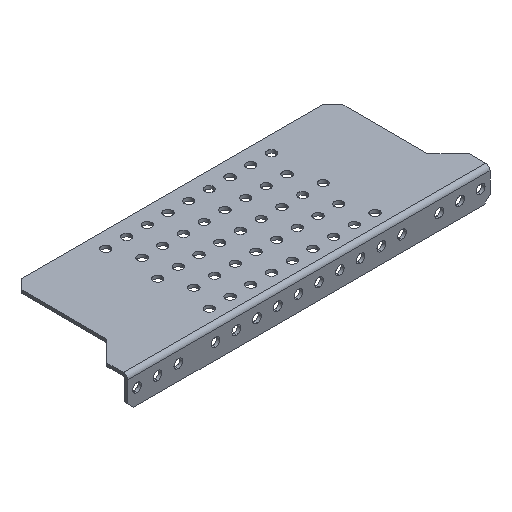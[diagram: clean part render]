
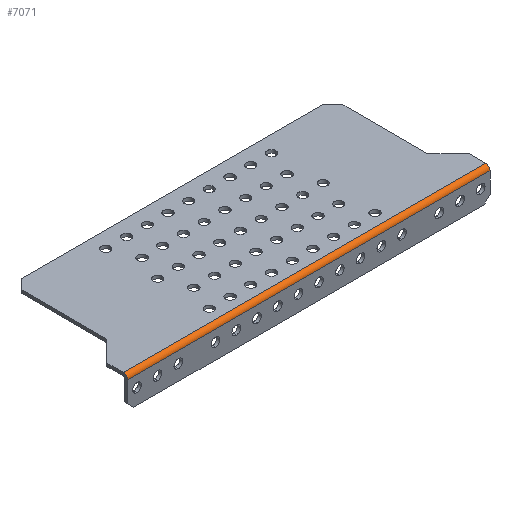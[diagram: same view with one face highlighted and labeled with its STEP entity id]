
A CAD part, isometric view. The second image highlights one B-rep face of the part: STEP entity #7071.
In plain terms, the highlighted cylindrical face has radius 2.1 mm (diameter 4.2 mm), a partial arc.
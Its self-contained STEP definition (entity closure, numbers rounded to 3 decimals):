
#2266=CARTESIAN_POINT(' ',(87.5,-33.,-2.1));
#2267=VERTEX_POINT(' ',#2266);
#2281=CARTESIAN_POINT(' ',(-87.5,-33.,-2.1));
#2286=DIRECTION(' ',(1.,0.,0.));
#2291=VECTOR(' ',#2286,1.);
#2296=LINE('',#2281,#2291);
#2301=CARTESIAN_POINT(' ',(-87.5,-33.,-2.1));
#2302=VERTEX_POINT(' ',#2301);
#2306=EDGE_CURVE(' ',#2302,#2267,#2296,.T.);
#6921=CARTESIAN_POINT(' ',(-87.5,-30.9,-2.1));
#6926=DIRECTION(' ',(-1.,0.,0.));
#6931=DIRECTION(' ',(0.,-1.,0.));
#6936=AXIS2_PLACEMENT_3D(' ',#6921,#6926,#6931);
#6941=CYLINDRICAL_SURFACE(' ',#6936,2.1);
#6946=CARTESIAN_POINT(' ',(-87.5,-30.9,0.));
#6951=DIRECTION(' ',(1.,0.,0.));
#6956=VECTOR(' ',#6951,1.);
#6961=LINE('',#6946,#6956);
#6966=CARTESIAN_POINT(' ',(-87.5,-30.9,0.));
#6967=VERTEX_POINT(' ',#6966);
#6971=CARTESIAN_POINT(' ',(87.5,-30.9,0.));
#6972=VERTEX_POINT(' ',#6971);
#6976=EDGE_CURVE(' ',#6967,#6972,#6961,.T.);
#6981=ORIENTED_EDGE(' ',*,*,#6976,.F.);
#6986=CARTESIAN_POINT(' ',(-87.5,-30.9,-2.1));
#6991=DIRECTION(' ',(-1.,0.,-0.));
#6996=DIRECTION(' ',(0.,-1.,0.));
#7001=AXIS2_PLACEMENT_3D(' ',#6986,#6991,#6996);
#7006=CIRCLE('',#7001,2.1);
#7011=EDGE_CURVE(' ',#2302,#6967,#7006,.T.);
#7016=ORIENTED_EDGE(' ',*,*,#7011,.F.);
#7021=ORIENTED_EDGE(' ',*,*,#2306,.T.);
#7026=CARTESIAN_POINT(' ',(87.5,-30.9,-2.1));
#7031=DIRECTION(' ',(1.,0.,0.));
#7036=DIRECTION(' ',(0.,0.,1.));
#7041=AXIS2_PLACEMENT_3D(' ',#7026,#7031,#7036);
#7046=CIRCLE('',#7041,2.1);
#7051=EDGE_CURVE(' ',#6972,#2267,#7046,.T.);
#7056=ORIENTED_EDGE(' ',*,*,#7051,.F.);
#7061=EDGE_LOOP(' ',(#6981,#7016,#7021,#7056));
#7066=FACE_OUTER_BOUND(' ',#7061,.T.);
#7071=ADVANCED_FACE('NONE',(#7066),#6941,.T.);
